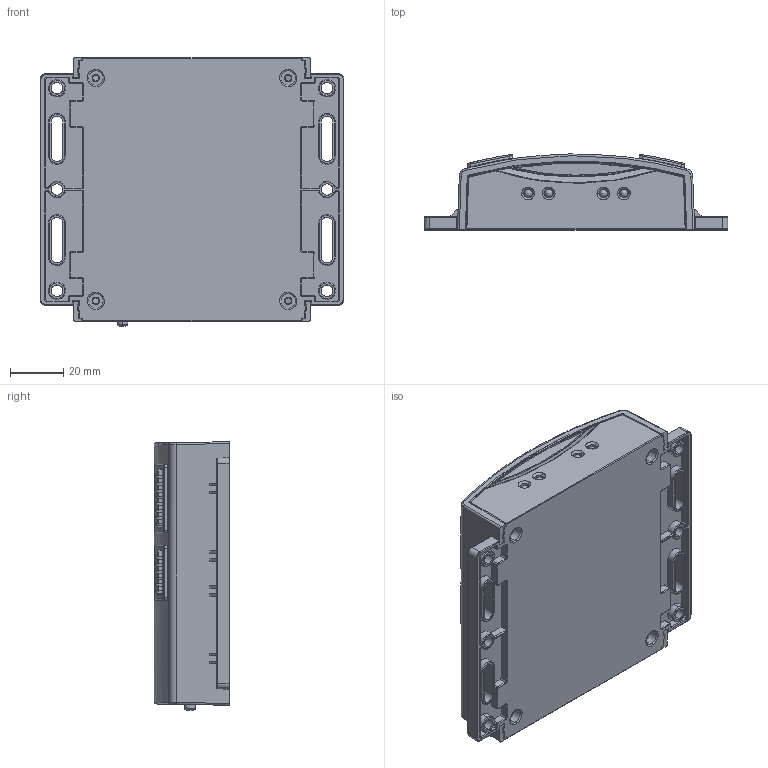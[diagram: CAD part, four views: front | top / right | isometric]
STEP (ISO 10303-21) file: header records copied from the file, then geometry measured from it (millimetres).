
FILE_DESCRIPTION (( 'STEP AP203' ), '1' );
FILE_NAME ('VEX-PIC-MICROCONTROLLER.STEP', '2011-02-17T19:25:29', ( '' ), ( '' ), 'SwSTEP 2.0', 'SolidWorks 2010', '' );
FILE_SCHEMA (( 'CONFIG_CONTROL_DESIGN' ));
Products named in the file (14): VEX-PIC-MICROCONTROLLER; MICROCONTROLLER-TOP; MICROCONTROLLER-BOT; MICROCONTROLLER-PCB; MICROCONTROLLER-PCB-BASE; MICROCONTROLLER-PCB-POWER; MICROCONTROLLER-PCB-SWITCH; MICROCONTROLLER-PCB-PIN4; MICROCONTROLLER-PCB-PIN6; MICROCONTROLLER-SWITCH; MICROCONTROLLER-FRONT; MICROCONTROLLER-COVER-B; MICROCONTROLLER-COVER-C; MICROCONTROLLER-COVER-A
Assembly tree (14 placements, depth 3):
  VEX-PIC-MICROCONTROLLER
    MICROCONTROLLER-TOP
    MICROCONTROLLER-PCB
      MICROCONTROLLER-PCB-PIN4  x2
      MICROCONTROLLER-PCB-BASE
      MICROCONTROLLER-PCB-POWER
      MICROCONTROLLER-PCB-SWITCH
      MICROCONTROLLER-PCB-PIN6
    MICROCONTROLLER-COVER-C
    MICROCONTROLLER-BOT
    MICROCONTROLLER-COVER-A
    MICROCONTROLLER-COVER-B
    MICROCONTROLLER-FRONT
    MICROCONTROLLER-SWITCH
Bounding box: 114.29 x 28.49 x 101.05 mm (x, y, z)
Volume: 78754.5 mm3; surface area: 90822.4 mm2
Topology: 19 solids, 20 shells, 3009 faces, 8221 edges, 5341 vertices
Faces by surface type: plane 2039, cylinder 529, bspline 359, cone 70, torus 12
Entity records: 111294 total; most frequent: CARTESIAN_POINT 38022, ORIENTED_EDGE 16138, DIRECTION 12799, EDGE_CURVE 8069, LINE 5751, VECTOR 5751, VERTEX_POINT 5269, AXIS2_PLACEMENT_3D 3524
